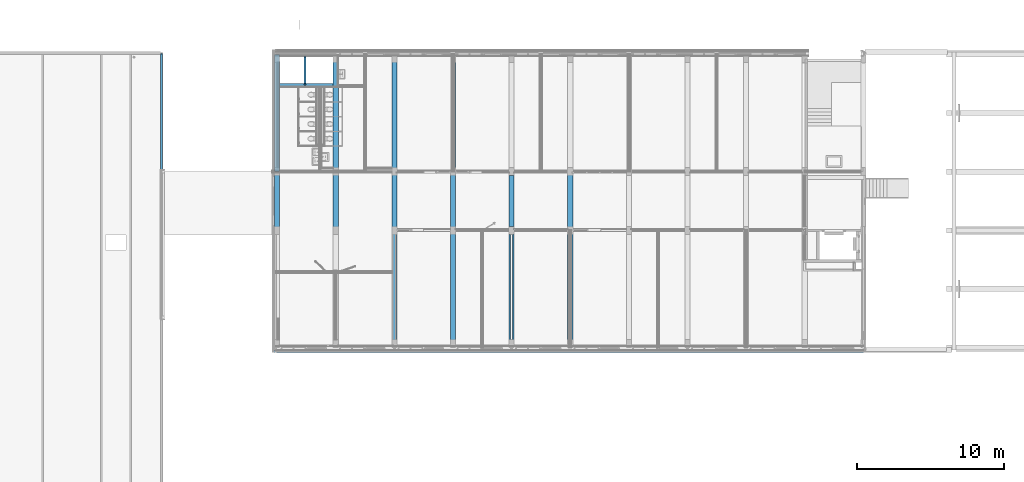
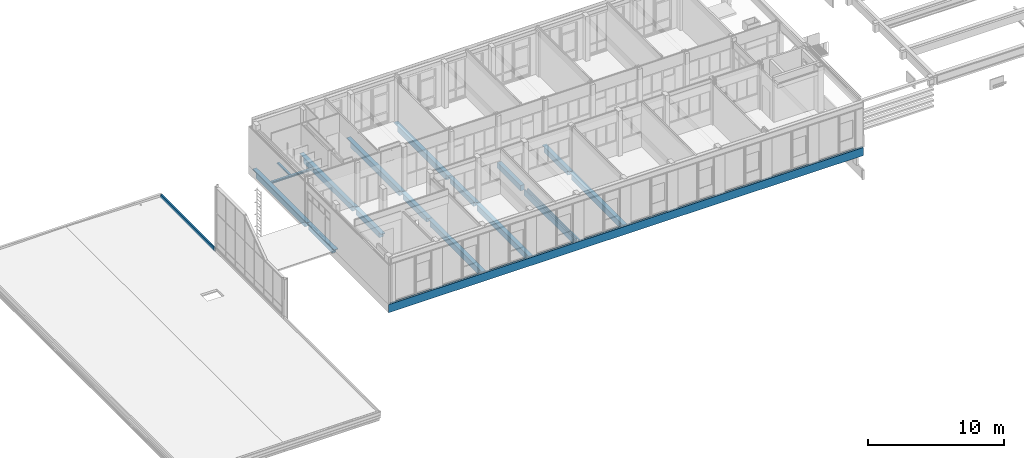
# One storey, part 8 of 54: 18 beams.
"""IFC2X3 building model written with IfcOpenShell, lengths in millimetres."""

from ifc_helpers import new_model, entity, si_unit, converted_unit, derived_unit, money_unit, direction, frame, origin_with_axes, place, context, subcontext, project, spatial, faceted_brep, material, type_object, element, save


model = new_model("IFC2X3")

# Units and contexts
model_context = context("Model", 3, precision=0.01, world=origin_with_axes(), true_north=direction((0.0, 1.0)))
body_context = subcontext(model_context, "Body", "Model", "MODEL_VIEW")
ifc_project = project(units=[si_unit("LENGTHUNIT", "METRE", prefix="MILLI"), si_unit("AREAUNIT", "SQUARE_METRE"), si_unit("VOLUMEUNIT", "CUBIC_METRE"), converted_unit("PLANEANGLEUNIT", "DEGREE", entity("IfcPlaneAngleMeasure", 0.0174532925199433), si_unit("PLANEANGLEUNIT", "RADIAN"), dimensions=[0, 0, 0, 0, 0, 0, 0]), money_unit("EUR"), converted_unit("TIMEUNIT", "Year", entity("IfcTimeMeasure", 31557600.0), si_unit("TIMEUNIT", "SECOND"), dimensions=[0, 0, 1, 0, 0, 0, 0]), si_unit("MASSUNIT", "GRAM", prefix="KILO"), si_unit("THERMODYNAMICTEMPERATUREUNIT", "DEGREE_CELSIUS"), si_unit("LUMINOUSINTENSITYUNIT", "LUMEN"), si_unit("ENERGYUNIT", "JOULE", prefix="MEGA"), derived_unit("THERMALCONDUCTANCEUNIT", [(si_unit("POWERUNIT", "WATT"), 1), (si_unit("LENGTHUNIT", "METRE"), -1), (si_unit("THERMODYNAMICTEMPERATUREUNIT", "KELVIN"), -1)]), derived_unit("SPECIFICHEATCAPACITYUNIT", [(si_unit("ENERGYUNIT", "JOULE"), 1), (si_unit("MASSUNIT", "GRAM", prefix="KILO"), -1), (si_unit("THERMODYNAMICTEMPERATUREUNIT", "KELVIN"), -1)]), derived_unit("MASSDENSITYUNIT", [(si_unit("MASSUNIT", "GRAM", prefix="KILO"), 1), (si_unit("VOLUMEUNIT", "CUBIC_METRE"), -1)])], contexts=[model_context])

# Site, building, storey
site_placement = place(None, origin_with_axes())
site = spatial("IfcSite", under=ifc_project, at=site_placement, Name="<site naam>", CompositionType="ELEMENT")
building_placement = place(site_placement, origin_with_axes())
building = spatial("IfcBuilding", under=site, at=building_placement, Name="<Naam gebouw>", CompositionType="ELEMENT")
storey_placement = place(building_placement, frame((0.0, 0.0, 8500.0), z_axis=(0.0, 0.0, 1.0), x_axis=(1.0, 0.0, 0.0)))
storey = spatial("IfcBuildingStorey", under=building, at=storey_placement, Name="02 2e verdieping", CompositionType="ELEMENT", Elevation=8500.0)

# Beams
ifc_material_1 = material(Name="beton_gewapend C")
beam_type_1 = type_object("IfcBeamType", Name="beton_gewapend C 350 x 650", PredefinedType="BEAM")
beam_1_placement = place(storey_placement, frame((28000.00000000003, 7994.453850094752, -30.00000000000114), z_axis=(0.0, 0.0, 1.0), x_axis=(-1.0, 0.0, 0.0)))
element("IfcBeam", 1, at=beam_1_placement, inside=storey, type_object=beam_type_1, material=ifc_material_1, Name="28_Balk_beton_gewapend", ObjectType="BEAM", context=body_context, shape_type="Brep", body=[
    faceted_brep([(65.00000000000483, 7994.453850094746, -169.9999999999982), (65.00000000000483, 7444.453850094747, -169.9999999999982), (65.00000000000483, 7444.453850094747, -650.0000000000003), (65.00000000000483, 269.4538500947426, -650.0000000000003), (65.00000000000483, 269.4538500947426, -119.9999999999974), (65.00000000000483, 7994.453850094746, -119.9999999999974), (175.0000000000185, 7444.453850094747, -169.9999999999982), (175.0000000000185, 7994.453850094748, -169.9999999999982), (175.0000000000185, 7444.453850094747, -650.0000000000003), (175.0000000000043, 269.4538500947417, -650.0000000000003), (175.0000000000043, 269.4538500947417, -119.9999999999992), (175.0000000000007, 7994.453850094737, -119.9999999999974)], [[[0, 1, 2, 3, 4, 5]], [[6, 1, 0, 7]], [[8, 2, 1, 6]], [[3, 2, 8, 9]], [[9, 10, 4, 3]], [[5, 4, 10, 11]], [[11, 7, 0, 5]], [[8, 6, 7, 11, 10, 9]]]),
    faceted_brep([(-174.9999999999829, 7994.453850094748, -169.9999999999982), (-174.9999999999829, 7444.453850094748, -169.9999999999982), (-174.9999999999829, 7444.453850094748, -650.0000000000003), (-174.9999999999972, 269.4538500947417, -650.0000000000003), (-174.9999999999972, 269.4538500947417, -119.9999999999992), (-175.0000000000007, 7994.453850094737, -119.9999999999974), (-64.99999999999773, 7444.453850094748, -169.9999999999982), (-64.99999999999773, 7994.453850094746, -169.9999999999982), (-64.99999999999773, 7444.453850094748, -650.0000000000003), (-64.99999999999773, 269.4538500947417, -650.0000000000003), (-64.99999999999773, 269.4538500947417, -119.9999999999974), (-64.99999999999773, 7994.453850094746, -119.9999999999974)], [[[0, 1, 2, 3, 4, 5]], [[6, 1, 0, 7]], [[8, 2, 1, 6]], [[3, 2, 8, 9]], [[9, 10, 4, 3]], [[5, 4, 10, 11]], [[11, 7, 0, 5]], [[8, 6, 7, 11, 10, 9]]]),
])
beam_2_placement = place(storey_placement, frame((32000.00000000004, 8000.000000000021, -30.00000000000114), z_axis=(0.0, 0.0, 1.0), x_axis=(-1.0, 0.0, 0.0)))
element("IfcBeam", 2, at=beam_2_placement, inside=storey, type_object=beam_type_1, material=ifc_material_1, Name="28_Balk_beton_gewapend", ObjectType="BEAM", context=body_context, shape_type="Brep", body=[
    faceted_brep([(-174.9999999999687, 7994.453850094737, -169.9999999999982), (-174.9999999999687, 7450.000000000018, -169.9999999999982), (-174.9999999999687, 7450.000000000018, -650.0000000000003), (-174.9999999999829, 275.000000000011, -650.0000000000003), (-174.9999999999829, 275.000000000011, -169.9999999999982), (-174.9999999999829, 0.0, -169.9999999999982), (-174.9999999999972, 0.0, -119.9999999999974), (-175.0000000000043, 7994.453850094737, -119.9999999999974), (175.0000000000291, 7450.000000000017, -169.9999999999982), (175.0000000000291, 7994.453850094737, -169.9999999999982), (175.0000000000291, 7450.000000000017, -650.0000000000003), (175.0000000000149, 275.000000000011, -650.0000000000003), (175.0000000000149, 275.000000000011, -169.9999999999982), (175.0000000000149, 0.0, -169.9999999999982), (175.0000000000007, 0.0, -119.9999999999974), (175.0000000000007, 7994.453850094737, -119.9999999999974)], [[[0, 1, 2, 3, 4, 5, 6, 7]], [[8, 1, 0, 9]], [[10, 2, 1, 8]], [[3, 2, 10, 11]], [[12, 4, 3, 11]], [[12, 13, 5, 4]], [[6, 5, 13, 14]], [[14, 15, 7, 6]], [[15, 9, 0, 7]], [[10, 8, 9, 15, 14, 13, 12, 11]]]),
])
beam_3_placement = place(storey_placement, frame((24000.00000000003, 19999.99999999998, -30.00000000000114), z_axis=(0.0, 0.0, 1.0), x_axis=(-1.0, 0.0, 0.0)))
element("IfcBeam", 3, at=beam_3_placement, inside=storey, type_object=beam_type_1, material=ifc_material_1, Name="28_Balk_beton_gewapend", ObjectType="BEAM", context=body_context, shape_type="Brep", body=[
    faceted_brep([(-174.9999999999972, 7999.999999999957, -169.9999999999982), (-174.9999999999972, 7724.999999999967, -169.9999999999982), (-174.9999999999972, 7724.999999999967, -650.0000000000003), (-174.9999999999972, 550.0000000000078, -650.0000000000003), (-174.9999999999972, 550.0000000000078, -169.9999999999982), (-174.9999999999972, 0.0, -169.9999999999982), (-175.0000000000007, 0.0, -119.9999999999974), (-175.0000000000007, 7999.999999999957, -119.9999999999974), (175.0000000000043, 7724.999999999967, -169.9999999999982), (175.0000000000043, 7999.999999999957, -169.9999999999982), (175.0000000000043, 7724.999999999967, -650.0000000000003), (175.0000000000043, 550.0000000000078, -650.0000000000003), (175.0000000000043, 550.0000000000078, -169.9999999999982), (175.0000000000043, 0.0, -169.9999999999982), (175.0000000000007, 0.0, -119.9999999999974), (175.0000000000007, 7999.999999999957, -119.9999999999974)], [[[0, 1, 2, 3, 4, 5, 6, 7]], [[8, 1, 0, 9]], [[10, 2, 1, 8]], [[3, 2, 10, 11]], [[12, 4, 3, 11]], [[12, 13, 5, 4]], [[6, 5, 13, 14]], [[14, 15, 7, 6]], [[15, 9, 0, 7]], [[10, 8, 9, 15, 14, 13, 12, 11]]]),
])
beam_4_placement = place(storey_placement, frame((24000.00000000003, 7994.453850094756, -30.00000000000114), z_axis=(0.0, 0.0, 1.0), x_axis=(-1.0, 0.0, 0.0)))
element("IfcBeam", 4, at=beam_4_placement, inside=storey, type_object=beam_type_1, material=ifc_material_1, Name="28_Balk_beton_gewapend", ObjectType="BEAM", context=body_context, shape_type="Brep", body=[
    faceted_brep([(-174.9999999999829, 7994.453850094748, -169.9999999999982), (-174.9999999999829, 7444.453850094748, -169.9999999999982), (-174.9999999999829, 7444.453850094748, -650.0000000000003), (-174.9999999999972, 269.4538500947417, -650.0000000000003), (-174.9999999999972, 269.4538500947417, -169.9999999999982), (-174.9999999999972, 0.0, -169.9999999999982), (-175.0000000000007, 0.0, -119.9999999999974), (-175.0000000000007, 7994.453850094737, -119.9999999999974), (175.0000000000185, 7444.453850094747, -169.9999999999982), (175.0000000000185, 7994.453850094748, -169.9999999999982), (175.0000000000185, 7444.453850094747, -650.0000000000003), (175.0000000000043, 269.4538500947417, -650.0000000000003), (175.0000000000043, 269.4538500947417, -169.9999999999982), (175.0000000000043, 0.0, -169.9999999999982), (175.0000000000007, 0.0, -119.9999999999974), (175.0000000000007, 7994.453850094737, -119.9999999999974)], [[[0, 1, 2, 3, 4, 5, 6, 7]], [[8, 1, 0, 9]], [[10, 2, 1, 8]], [[3, 2, 10, 11]], [[12, 4, 3, 11]], [[12, 13, 5, 4]], [[6, 5, 13, 14]], [[14, 15, 7, 6]], [[15, 9, 0, 7]], [[10, 8, 9, 15, 14, 13, 12, 11]]]),
])
beam_5_placement = place(storey_placement, frame((20000.00000000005, 19999.99999999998, -30.00000000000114), z_axis=(0.0, 0.0, 1.0), x_axis=(-1.0, 0.0, 0.0)))
element("IfcBeam", 5, at=beam_5_placement, inside=storey, type_object=beam_type_1, material=ifc_material_1, Name="28_Balk_beton_gewapend", ObjectType="BEAM", context=body_context, shape_type="Brep", body=[
    faceted_brep([(-174.9999999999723, 7999.999999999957, -169.9999999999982), (-174.9999999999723, 7724.999999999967, -169.9999999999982), (-174.9999999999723, 7724.999999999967, -650.0000000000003), (-174.9999999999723, 550.0000000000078, -650.0000000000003), (-174.9999999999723, 550.0000000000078, -169.9999999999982), (-174.9999999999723, 0.0, -169.9999999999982), (-175.0000000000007, 0.0, -119.9999999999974), (-175.0000000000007, 7999.999999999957, -119.9999999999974), (175.0000000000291, 7724.999999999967, -169.9999999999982), (175.0000000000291, 7999.999999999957, -169.9999999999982), (175.0000000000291, 7724.999999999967, -650.0000000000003), (175.0000000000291, 550.0000000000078, -650.0000000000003), (175.0000000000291, 550.0000000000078, -169.9999999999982), (175.0000000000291, 0.0, -169.9999999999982), (175.0000000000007, 0.0, -119.9999999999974), (175.0000000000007, 7999.999999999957, -119.9999999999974)], [[[0, 1, 2, 3, 4, 5, 6, 7]], [[8, 1, 0, 9]], [[10, 2, 1, 8]], [[3, 2, 10, 11]], [[12, 4, 3, 11]], [[12, 13, 5, 4]], [[6, 5, 13, 14]], [[14, 15, 7, 6]], [[15, 9, 0, 7]], [[10, 8, 9, 15, 14, 13, 12, 11]]]),
])
beam_6_placement = place(storey_placement, frame((20000.00000000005, 7994.453850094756, -30.00000000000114), z_axis=(0.0, 0.0, 1.0), x_axis=(-1.0, 0.0, 0.0)))
element("IfcBeam", 6, at=beam_6_placement, inside=storey, type_object=beam_type_1, material=ifc_material_1, Name="28_Balk_beton_gewapend", ObjectType="BEAM", context=body_context, shape_type="Brep", body=[
    faceted_brep([(-174.9999999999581, 7994.453850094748, -169.9999999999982), (-174.9999999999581, 7444.453850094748, -169.9999999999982), (-174.9999999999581, 7444.453850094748, -650.0000000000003), (-174.9999999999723, 269.4538500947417, -650.0000000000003), (-174.9999999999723, 269.4538500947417, -169.9999999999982), (-174.9999999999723, 0.0, -169.9999999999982), (-175.0000000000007, 0.0, -119.9999999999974), (-175.0000000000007, 7994.453850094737, -119.9999999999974), (175.0000000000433, 7444.453850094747, -169.9999999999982), (175.0000000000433, 7994.453850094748, -169.9999999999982), (175.0000000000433, 7444.453850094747, -650.0000000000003), (175.0000000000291, 269.4538500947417, -650.0000000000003), (175.0000000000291, 269.4538500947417, -169.9999999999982), (175.0000000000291, 0.0, -169.9999999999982), (175.0000000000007, 0.0, -119.9999999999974), (175.0000000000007, 7994.453850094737, -119.9999999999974)], [[[0, 1, 2, 3, 4, 5, 6, 7]], [[8, 1, 0, 9]], [[10, 2, 1, 8]], [[3, 2, 10, 11]], [[12, 4, 3, 11]], [[12, 13, 5, 4]], [[6, 5, 13, 14]], [[14, 15, 7, 6]], [[15, 9, 0, 7]], [[10, 8, 9, 15, 14, 13, 12, 11]]]),
])
beam_7_placement = place(storey_placement, frame((12000.00000000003, 19999.99999999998, -30.00000000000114), z_axis=(0.0, 0.0, 1.0), x_axis=(-1.0, 0.0, 0.0)))
element("IfcBeam", 7, at=beam_7_placement, inside=storey, type_object=beam_type_1, material=ifc_material_1, Name="28_Balk_beton_gewapend", ObjectType="BEAM", context=body_context, shape_type="Brep", body=[
    faceted_brep([(-174.9999520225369, 7999.999999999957, -169.9999999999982), (-174.9999520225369, 7725.000046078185, -169.9999999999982), (-174.9999520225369, 7725.000046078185, -650.0000000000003), (-174.9999520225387, 549.9999999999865, -650.0000000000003), (-174.9999520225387, 549.9999999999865, -169.9999999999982), (-174.9999520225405, 0.0, -169.9999999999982), (-175.0000000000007, 0.0, -119.9999999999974), (-175.0000000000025, 7999.999999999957, -119.9999999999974), (175.0000479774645, 7725.000046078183, -169.9999999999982), (175.0000479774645, 7999.999999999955, -169.9999999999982), (175.0000479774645, 7725.000046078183, -650.0000000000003), (175.0000479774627, 549.9999999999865, -650.0000000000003), (175.0000479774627, 549.9999999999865, -169.9999999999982), (175.000047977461, 0.0, -169.9999999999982), (175.0000000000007, 0.0, -119.9999999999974), (175.0000000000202, 7999.999999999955, -119.9999999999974)], [[[0, 1, 2, 3, 4, 5, 6, 7]], [[8, 1, 0, 9]], [[10, 2, 1, 8]], [[3, 2, 10, 11]], [[12, 4, 3, 11]], [[12, 13, 5, 4]], [[6, 5, 13, 14]], [[14, 15, 7, 6]], [[15, 9, 0, 7]], [[10, 8, 9, 15, 14, 13, 12, 11]]]),
])
beam_8_placement = place(storey_placement, frame((16000.00000000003, 19999.99999999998, -30.00000000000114), z_axis=(0.0, 0.0, 1.0), x_axis=(-1.0, 0.0, 0.0)))
element("IfcBeam", 8, at=beam_8_placement, inside=storey, type_object=beam_type_1, material=ifc_material_1, Name="28_Balk_beton_gewapend", ObjectType="BEAM", context=body_context, shape_type="Brep", body=[
    faceted_brep([(-174.9999999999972, 7999.999999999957, -169.9999999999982), (-174.9999999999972, 7724.999999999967, -169.9999999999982), (-174.9999999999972, 7724.999999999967, -650.0000000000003), (-174.9999999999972, 550.0000000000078, -650.0000000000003), (-174.9999999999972, 550.0000000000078, -169.9999999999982), (-174.9999999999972, 0.0, -169.9999999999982), (-175.0000000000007, 0.0, -119.9999999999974), (-175.0000000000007, 7999.999999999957, -119.9999999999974), (175.0000000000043, 7724.999999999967, -169.9999999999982), (175.0000000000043, 7999.999999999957, -169.9999999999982), (175.0000000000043, 7724.999999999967, -650.0000000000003), (175.0000000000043, 550.0000000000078, -650.0000000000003), (175.0000000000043, 550.0000000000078, -169.9999999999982), (175.0000000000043, 0.0, -169.9999999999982), (175.0000000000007, 0.0, -119.9999999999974), (174.9999999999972, 7999.999999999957, -119.9999999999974)], [[[0, 1, 2, 3, 4, 5, 6, 7]], [[8, 1, 0, 9]], [[10, 2, 1, 8]], [[3, 2, 10, 11]], [[12, 4, 3, 11]], [[12, 13, 5, 4]], [[6, 5, 13, 14]], [[14, 15, 7, 6]], [[15, 9, 0, 7]], [[10, 8, 9, 15, 14, 13, 12, 11]]]),
])
ifc_material_2 = material(Name="staal C")
beam_type_2 = type_object("IfcBeamType", Name="Profiel H algemeen 140 x 133", PredefinedType="BEAM")
beam_9_placement = place(storey_placement, frame((13894.99999999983, 19900.00000799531, -216.5006067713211), z_axis=(0.0, 0.0, 1.0), x_axis=(-1.0, 0.0, 0.0)))
element("IfcBeam", 9, at=beam_9_placement, inside=storey, type_object=beam_type_2, material=ifc_material_2, Name="28_Balk_Profiel", ObjectType="BEAM", context=body_context, shape_type="Brep", body=[
    faceted_brep([(70.00000000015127, 90.00000999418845, 66.5006208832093), (70.00000000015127, 1890.000005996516, 66.5006208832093), (-70.00000000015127, 1890.000005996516, 66.5006208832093), (-70.00000000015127, 90.00000999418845, 66.5006208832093), (70.00000000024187, 90.00000799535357, 58.00060676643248), (70.00000000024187, 1890.000005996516, 58.00060676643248), (-2.750000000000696, 1890.000005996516, 58.00060676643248), (-70.00000000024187, 1890.000005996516, 58.00060676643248), (2.74999999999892, 1890.000005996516, 58.00060676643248), (2.74999999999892, 1890.000007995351, 57.00051043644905), (-2.750000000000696, 1890.000007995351, 57.00051043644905), (-70.00000000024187, 90.00000799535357, 58.00060676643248), (2.750000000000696, 90.00000799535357, 58.00060676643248), (-2.750000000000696, 90.00000799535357, 58.00060676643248), (-2.750000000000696, 90.00000799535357, 57.00051043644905), (2.74999999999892, 90.00000799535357, 57.00051043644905), (2.74999999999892, 1977.000015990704, 57.00051043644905), (2.74999999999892, 3.000000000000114, 57.00051043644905), (2.750000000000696, 3.000000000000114, -58.00060676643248), (2.74999999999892, 1977.000015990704, -58.00060676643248), (-2.750000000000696, 1977.000015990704, 57.00051043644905), (-2.750000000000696, 1977.000015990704, -58.00060676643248), (-2.750000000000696, 3.000000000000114, -58.00060676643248), (-2.750000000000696, 3.000000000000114, 57.00051043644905), (-70.00000000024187, 3.000000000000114, -58.00060676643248), (-70.00000000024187, 3.000000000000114, -66.50060677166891), (70.00000000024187, 3.000000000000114, -66.50060677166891), (70.00000000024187, 3.000000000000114, -58.00060676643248), (70.00000000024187, 1977.000015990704, -58.00060676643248), (70.00000000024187, 1977.000015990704, -66.50060677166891), (-70.00000000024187, 1977.000015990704, -66.50060677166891), (-70.00000000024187, 1977.000015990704, -58.00060676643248)], [[[0, 1, 2, 3]], [[4, 5, 1, 0]], [[6, 7, 2, 1, 5, 8, 9, 10]], [[3, 2, 7, 11]], [[12, 4, 0, 3, 11, 13, 14, 15]], [[12, 8, 5, 4]], [[11, 7, 6, 13]], [[16, 9, 8, 12, 15, 17, 18, 19]], [[16, 20, 10, 9]], [[10, 20, 21, 22, 23, 14, 13, 6]], [[17, 15, 14, 23]], [[17, 23, 22, 24, 25, 26, 27, 18]], [[27, 28, 19, 18]], [[29, 30, 31, 21, 20, 16, 19, 28]], [[22, 21, 31, 24]], [[24, 31, 30, 25]], [[25, 30, 29, 26]], [[26, 29, 28, 27]]]),
])
ifc_material_3 = material(Name="beton_gewapend_prefab")
beam_type_3 = type_object("IfcBeamType", Name="Betonbanden 160 x 760", PredefinedType="BEAM")
beam_10_placement = place(storey_placement, frame((11725.00000000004, -264.9999999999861, 70.00000842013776), z_axis=(0.0, 0.0, 1.0), x_axis=(0.0, -1.0, 0.0)))
element("IfcBeam", 10, at=beam_10_placement, inside=storey, type_object=beam_type_3, material=ifc_material_3, Name="41_Balk_Betonbanden", ObjectType="BEAM", context=body_context, shape_type="Brep", body=[
    faceted_brep([(-60.0000003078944, 60.00000030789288, 0.0), (-60.0000003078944, 60.00000030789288, -30.00000230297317), (-60.00000030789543, 40275.00000000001, -30.00000230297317), (-60.00000030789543, 40275.00000000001, 0.0), (59.99999757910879, -59.99999757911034, -759.9999375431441), (59.99999757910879, -59.99999757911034, -30.00000230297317), (-100.0000071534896, 100.0000071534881, 0.0), (-100.0000071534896, 100.0000071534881, -100.0000001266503), (4.298053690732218e-06, -4.298053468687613e-06, -100.0000001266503), (4.298053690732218e-06, -4.298053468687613e-06, -690.0000385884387), (-29.99999800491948, 29.99999800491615, -690.0000385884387), (-29.99999800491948, 29.99999800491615, -660.0000280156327), (-60.0000003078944, 60.00000030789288, -660.0000280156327), (-60.0000003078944, 60.00000030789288, -759.9999375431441), (4.298053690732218e-06, -4.298053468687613e-06, -759.9999375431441), (4.298053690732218e-06, -4.298053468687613e-06, -730.0000145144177), (29.99999527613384, -29.99999527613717, -730.0000145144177), (29.99999527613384, -29.99999527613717, -759.9999375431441), (59.99999757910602, 40275.00000000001, -30.00000230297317), (-100.0000071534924, 40275.00000000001, 0.0), (59.99999757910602, 40275.00000000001, -759.9999375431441), (29.99999527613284, 40275.00000000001, -759.9999375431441), (29.99999527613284, 40275.00000000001, -730.0000145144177), (4.298050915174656e-06, 40275.00000000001, -730.0000145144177), (4.298050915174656e-06, 40275.00000000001, -759.9999375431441), (-60.00000030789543, 40275.00000000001, -759.9999375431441), (-60.00000030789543, 40275.00000000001, -660.0000280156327), (-29.99999800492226, 40275.00000000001, -660.0000280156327), (-29.99999800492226, 40275.00000000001, -690.0000385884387), (4.298050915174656e-06, 40275.00000000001, -690.0000385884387), (4.298050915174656e-06, 40275.00000000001, -100.0000001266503), (-100.0000071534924, 40275.00000000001, -100.0000001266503)], [[[0, 1, 2, 3]], [[4, 5, 1, 0, 6, 7, 8, 9, 10, 11, 12, 13, 14, 15, 16, 17]], [[1, 5, 18, 2]], [[19, 3, 2, 18, 20, 21, 22, 23, 24, 25, 26, 27, 28, 29, 30, 31]], [[6, 0, 3, 19]], [[5, 4, 20, 18]], [[7, 6, 19, 31]], [[8, 7, 31, 30]], [[9, 8, 30, 29]], [[10, 9, 29, 28]], [[11, 10, 28, 27]], [[12, 11, 27, 26]], [[13, 12, 26, 25]], [[14, 13, 25, 24]], [[15, 14, 24, 23]], [[16, 15, 23, 22]], [[17, 16, 22, 21]], [[4, 17, 21, 20]]]),
])
beam_type_4 = type_object("IfcBeamType", Name="Profiel H algemeen 180 x 171", PredefinedType="BEAM")
beam_11_placement = place(storey_placement, frame((12175.00000000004, 17919.99999200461, -235.5000705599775), z_axis=(0.0, 0.0, 1.0), x_axis=(0.0, -1.0, 0.0)))
element("IfcBeam", 11, at=beam_11_placement, inside=storey, type_object=beam_type_4, material=ifc_material_2, Name="28_Balk_Profiel", ObjectType="BEAM", context=body_context, shape_type="Brep", body=[
    faceted_brep([(90.00000799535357, 0.0, -75.9999742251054), (90.00000799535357, 3649.999999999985, -75.9999742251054), (3.000000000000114, 3649.999999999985, -75.9999742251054), (3.000000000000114, 0.0, -75.9999742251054), (90.00000999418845, 0.0, -85.50008467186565), (90.00000999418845, 3649.999999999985, -85.50008467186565), (-90.00000999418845, 3649.999999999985, -85.50008467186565), (-90.00000799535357, 3649.999999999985, -75.9999742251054), (-3.000000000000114, 3649.999999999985, -75.9999742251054), (-3.000000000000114, 3649.999999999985, 75.9999742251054), (-90.00000799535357, 3649.999999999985, 75.9999742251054), (-90.00000999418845, 3649.999999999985, 85.50008467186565), (90.00000999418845, 3649.999999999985, 85.50008467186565), (90.00000799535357, 3649.999999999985, 75.9999742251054), (3.000000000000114, 3649.999999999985, 75.9999742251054), (3.000000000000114, 0.0, 75.9999742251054), (90.00000799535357, 0.0, 75.9999742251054), (90.00000999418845, 0.0, 85.50008467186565), (-90.00000999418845, 0.0, 85.50008467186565), (-90.00000799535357, 0.0, 75.9999742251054), (-3.000000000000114, 0.0, 75.9999742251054), (-3.000000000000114, 0.0, -75.9999742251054), (-90.00000799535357, 0.0, -75.9999742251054), (-90.00000999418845, 0.0, -85.50008467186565)], [[[0, 1, 2, 3]], [[4, 5, 1, 0]], [[2, 1, 5, 6, 7, 8, 9, 10, 11, 12, 13, 14]], [[3, 2, 14, 15]], [[4, 0, 3, 15, 16, 17, 18, 19, 20, 21, 22, 23]], [[23, 6, 5, 4]], [[22, 7, 6, 23]], [[21, 8, 7, 22]], [[20, 9, 8, 21]], [[19, 10, 9, 20]], [[18, 11, 10, 19]], [[17, 12, 11, 18]], [[16, 13, 12, 17]], [[15, 14, 13, 16]]]),
])
beam_type_5 = type_object("IfcBeamType", Name="beton_gewapend C 350 x 600", PredefinedType="BEAM")
beam_12_placement = place(storey_placement, frame((28000.00000000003, 12000.00000000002, -30.00000000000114), z_axis=(0.0, 0.0, 1.0), x_axis=(-1.0, 0.0, 0.0)))
element("IfcBeam", 12, at=beam_12_placement, inside=storey, type_object=beam_type_5, material=ifc_material_1, Name="28_Balk_beton_gewapend", ObjectType="BEAM", context=body_context, shape_type="Brep", body=[
    faceted_brep([(175.0000000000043, 275.000000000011, -119.9999999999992), (175.0000000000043, 3725.00000000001, -119.9999999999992), (-174.9999999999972, 3725.00000000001, -119.9999999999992), (-174.9999999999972, 275.000000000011, -119.9999999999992), (175.0000000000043, 275.000000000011, -599.9999999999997), (175.0000000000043, 3725.00000000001, -599.9999999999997), (-174.9999999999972, 3725.00000000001, -599.9999999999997), (-174.9999999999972, 275.000000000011, -599.9999999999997)], [[[0, 1, 2, 3]], [[4, 5, 1, 0]], [[5, 6, 2, 1]], [[3, 2, 6, 7]], [[4, 0, 3, 7]], [[7, 6, 5, 4]]]),
])
beam_13_placement = place(storey_placement, frame((32000.00000000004, 12005.54614990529, -30.00000000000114), z_axis=(0.0, 0.0, 1.0), x_axis=(-1.0, 0.0, 0.0)))
element("IfcBeam", 13, at=beam_13_placement, inside=storey, type_object=beam_type_5, material=ifc_material_1, Name="28_Balk_beton_gewapend", ObjectType="BEAM", context=body_context, shape_type="Brep", body=[
    faceted_brep([(-174.9999999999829, 4005.546149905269, -169.9999999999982), (-174.9999999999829, 3730.54614990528, -169.9999999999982), (-174.9999999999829, 3730.54614990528, -599.9999999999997), (-174.9999999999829, 280.5461499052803, -599.9999999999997), (-174.9999999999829, 280.5461499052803, -169.9999999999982), (-174.9999999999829, 0.0, -169.9999999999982), (-174.9999999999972, 0.0, -119.9999999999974), (-174.9999999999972, 4005.546149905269, -119.9999999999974), (175.0000000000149, 3730.54614990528, -169.9999999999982), (175.0000000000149, 4005.546149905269, -169.9999999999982), (175.0000000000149, 3730.54614990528, -599.9999999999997), (175.0000000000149, 280.5461499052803, -599.9999999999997), (175.0000000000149, 280.5461499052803, -169.9999999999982), (175.0000000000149, 0.0, -169.9999999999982), (175.0000000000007, 0.0, -119.9999999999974), (175.0000000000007, 4005.546149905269, -119.9999999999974)], [[[0, 1, 2, 3, 4, 5, 6, 7]], [[8, 1, 0, 9]], [[10, 2, 1, 8]], [[3, 2, 10, 11]], [[12, 4, 3, 11]], [[12, 13, 5, 4]], [[6, 5, 13, 14]], [[14, 15, 7, 6]], [[15, 9, 0, 7]], [[10, 8, 9, 15, 14, 13, 12, 11]]]),
])
beam_14_placement = place(storey_placement, frame((24000.00000000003, 12000.00000000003, -30.00000000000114), z_axis=(0.0, 0.0, 1.0), x_axis=(-1.0, 0.0, 0.0)))
element("IfcBeam", 14, at=beam_14_placement, inside=storey, type_object=beam_type_5, material=ifc_material_1, Name="28_Balk_beton_gewapend", ObjectType="BEAM", context=body_context, shape_type="Brep", body=[
    faceted_brep([(-174.9999999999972, 4005.546149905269, -169.9999999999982), (-174.9999999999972, 3725.00000000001, -169.9999999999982), (-174.9999999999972, 3725.00000000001, -599.9999999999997), (-174.9999999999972, 275.000000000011, -599.9999999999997), (-174.9999999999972, 275.000000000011, -169.9999999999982), (-174.9999999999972, 0.0, -169.9999999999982), (-175.0000000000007, 0.0, -119.9999999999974), (-175.0000000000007, 4005.546149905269, -119.9999999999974), (175.0000000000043, 3725.00000000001, -169.9999999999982), (175.0000000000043, 4005.546149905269, -169.9999999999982), (175.0000000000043, 3725.00000000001, -599.9999999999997), (175.0000000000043, 275.000000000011, -599.9999999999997), (175.0000000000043, 275.000000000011, -169.9999999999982), (175.0000000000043, 0.0, -169.9999999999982), (175.0000000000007, 0.0, -119.9999999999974), (175.0000000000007, 4005.546149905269, -119.9999999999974)], [[[0, 1, 2, 3, 4, 5, 6, 7]], [[8, 1, 0, 9]], [[10, 2, 1, 8]], [[3, 2, 10, 11]], [[12, 4, 3, 11]], [[12, 13, 5, 4]], [[6, 5, 13, 14]], [[14, 15, 7, 6]], [[15, 9, 0, 7]], [[10, 8, 9, 15, 14, 13, 12, 11]]]),
])
beam_15_placement = place(storey_placement, frame((20000.00000000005, 12000.00000000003, -30.00000000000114), z_axis=(0.0, 0.0, 1.0), x_axis=(-1.0, 0.0, 0.0)))
element("IfcBeam", 15, at=beam_15_placement, inside=storey, type_object=beam_type_5, material=ifc_material_1, Name="28_Balk_beton_gewapend", ObjectType="BEAM", context=body_context, shape_type="Brep", body=[
    faceted_brep([(-174.9999999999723, 4005.546149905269, -169.9999999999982), (-174.9999999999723, 3725.00000000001, -169.9999999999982), (-174.9999999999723, 3725.00000000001, -599.9999999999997), (-174.9999999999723, 275.000000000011, -599.9999999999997), (-174.9999999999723, 275.000000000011, -169.9999999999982), (-174.9999999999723, 0.0, -169.9999999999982), (-175.0000000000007, 0.0, -119.9999999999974), (-175.0000000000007, 4005.546149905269, -119.9999999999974), (175.0000000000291, 3725.00000000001, -169.9999999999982), (175.0000000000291, 4005.546149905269, -169.9999999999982), (175.0000000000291, 3725.00000000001, -599.9999999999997), (175.0000000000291, 275.000000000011, -599.9999999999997), (175.0000000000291, 275.000000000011, -169.9999999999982), (175.0000000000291, 0.0, -169.9999999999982), (175.0000000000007, 0.0, -119.9999999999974), (175.0000000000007, 4005.546149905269, -119.9999999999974)], [[[0, 1, 2, 3, 4, 5, 6, 7]], [[8, 1, 0, 9]], [[10, 2, 1, 8]], [[3, 2, 10, 11]], [[12, 4, 3, 11]], [[12, 13, 5, 4]], [[6, 5, 13, 14]], [[14, 15, 7, 6]], [[15, 9, 0, 7]], [[10, 8, 9, 15, 14, 13, 12, 11]]]),
])
beam_16_placement = place(storey_placement, frame((16000.00000000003, 12000.00000000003, -30.00000000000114), z_axis=(0.0, 0.0, 1.0), x_axis=(-1.0, 0.0, 0.0)))
element("IfcBeam", 16, at=beam_16_placement, inside=storey, type_object=beam_type_5, material=ifc_material_1, Name="28_Balk_beton_gewapend", ObjectType="BEAM", context=body_context, shape_type="Brep", body=[
    faceted_brep([(-174.9999999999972, 4005.546149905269, -169.9999999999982), (-174.9999999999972, 3725.00000000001, -169.9999999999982), (-174.9999999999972, 3725.00000000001, -599.9999999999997), (-174.9999999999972, 275.000000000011, -599.9999999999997), (-174.9999999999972, 275.000000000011, -169.9999999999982), (-174.9999999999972, 0.0, -169.9999999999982), (-175.0000000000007, 0.0, -119.9999999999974), (-175.0000000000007, 4005.546149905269, -119.9999999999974), (175.0000000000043, 3725.00000000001, -169.9999999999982), (175.0000000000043, 4005.546149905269, -169.9999999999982), (175.0000000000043, 3725.00000000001, -599.9999999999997), (175.0000000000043, 275.000000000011, -599.9999999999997), (175.0000000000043, 275.000000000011, -169.9999999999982), (175.0000000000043, 0.0, -169.9999999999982), (175.0000000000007, 0.0, -119.9999999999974), (174.9999999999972, 4005.546149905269, -119.9999999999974)], [[[0, 1, 2, 3, 4, 5, 6, 7]], [[8, 1, 0, 9]], [[10, 2, 1, 8]], [[3, 2, 10, 11]], [[12, 4, 3, 11]], [[12, 13, 5, 4]], [[6, 5, 13, 14]], [[14, 15, 7, 6]], [[15, 9, 0, 7]], [[10, 8, 9, 15, 14, 13, 12, 11]]]),
])
beam_17_placement = place(storey_placement, frame((12000.00000000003, 12000.00000000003, -30.00000000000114), z_axis=(0.0, 0.0, 1.0), x_axis=(-1.0, 0.0, 0.0)))
element("IfcBeam", 17, at=beam_17_placement, inside=storey, type_object=beam_type_5, material=ifc_material_1, Name="28_Balk_beton_gewapend", ObjectType="BEAM", context=body_context, shape_type="Brep", body=[
    faceted_brep([(-174.9999520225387, 4005.546149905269, -169.9999999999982), (-174.9999520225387, 3725.000046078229, -169.9999999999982), (-174.9999520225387, 3725.000046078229, -599.9999999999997), (-174.9999520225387, 275.0000460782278, -599.9999999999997), (-174.9999520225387, 275.0000460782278, -169.9999999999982), (-174.9999520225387, 0.0, -169.9999999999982), (-175.0000000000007, 0.0, -119.9999999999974), (-175.0000000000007, 4005.546149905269, -119.9999999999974), (175.0000479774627, 3725.000046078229, -169.9999999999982), (175.0000479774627, 4005.546149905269, -169.9999999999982), (175.0000479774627, 3725.000046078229, -599.9999999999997), (175.0000479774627, 275.0000460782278, -599.9999999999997), (175.0000479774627, 275.0000460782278, -169.9999999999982), (175.0000479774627, 0.0, -169.9999999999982), (175.0000000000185, 0.0, -119.9999999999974), (175.0000000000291, 4005.546149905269, -119.9999999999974)], [[[0, 1, 2, 3, 4, 5, 6, 7]], [[8, 1, 0, 9]], [[10, 2, 1, 8]], [[3, 2, 10, 11]], [[12, 4, 3, 11]], [[12, 13, 5, 4]], [[6, 5, 13, 14]], [[14, 15, 7, 6]], [[15, 9, 0, 7]], [[10, 8, 9, 15, 14, 13, 12, 11]]]),
])
ifc_material_4 = material(Name="ALG - BUITENAFWERKING")
beam_type_6 = type_object("IfcBeamType", Name="ALG - BUITENAFWERKING 120 x 330", PredefinedType="BEAM")
beam_18_placement = place(storey_placement, frame((4045.045835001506, 12159.96567299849, -70.00000000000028), z_axis=(0.0, 0.0, 1.0), x_axis=(1.0, 0.0, 0.0)))
element("IfcBeam", 18, at=beam_18_placement, inside=storey, type_object=beam_type_6, material=ifc_material_4, Name="47_Balk_ALG", ObjectType="BEAM", context=body_context, shape_type="Brep", body=[
    faceted_brep([(20.93190563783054, 0.0, 330.0000000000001), (20.93190563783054, 0.01603068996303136, 330.0000000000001), (120.0000000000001, 0.01603068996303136, 330.0000000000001), (120.0000000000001, 7885.035691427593, 330.0000000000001), (0.0, 7885.035691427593, 330.0000000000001), (0.0, 0.0, 330.0000000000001), (20.93190563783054, 0.0, 70.00000000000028), (20.93190563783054, 0.01603068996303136, 70.00000000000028), (120.0000000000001, 0.01603068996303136, 70.00000000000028), (120.0000000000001, 0.0, 70.00000000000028), (120.0000000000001, 0.0, 0.0), (120.0000000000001, 7885.035691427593, 0.0), (0.0, 7885.035691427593, 0.0), (0.0, 0.0, 0.0)], [[[0, 1, 2, 3, 4, 5]], [[6, 7, 1, 0]], [[7, 8, 2, 1]], [[2, 8, 9, 10, 11, 3]], [[12, 4, 3, 11]], [[13, 5, 4, 12]], [[10, 9, 6, 0, 5, 13]], [[6, 9, 8, 7]], [[10, 13, 12, 11]]]),
])

save(model, "model.ifc")
